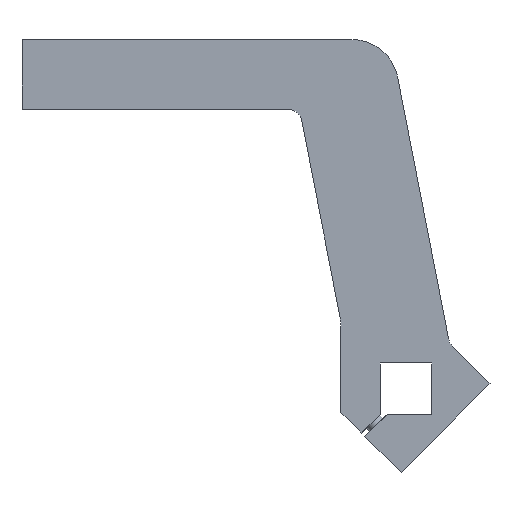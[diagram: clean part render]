
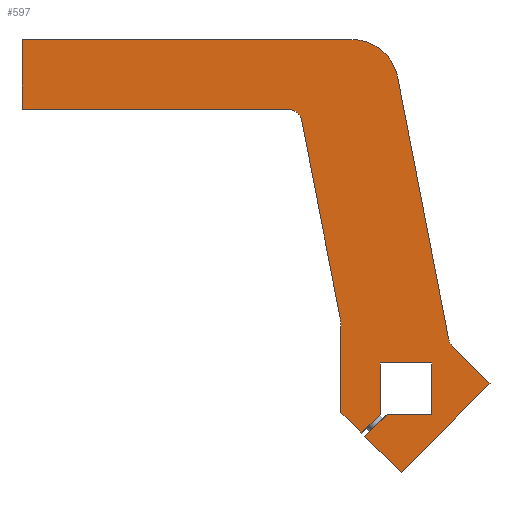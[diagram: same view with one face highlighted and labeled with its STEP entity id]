
A CAD part, left-side view. The second image highlights one B-rep face of the part: STEP entity #597.
In plain terms, the highlighted planar face has unit normal (-1, 0, 0).
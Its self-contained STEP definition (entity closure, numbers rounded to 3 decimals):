
#35=PLANE('',#662);
#57=FACE_OUTER_BOUND('',#94,.T.);
#94=EDGE_LOOP('',(#448,#449,#450,#451,#452,#453,#454,#455,#456,#457,#458,
#459,#460,#461,#462,#463,#464,#465,#466,#467));
#127=LINE('',#875,#187);
#132=LINE('',#890,#192);
#138=LINE('',#919,#198);
#142=LINE('',#931,#202);
#143=LINE('',#934,#203);
#144=LINE('',#935,#204);
#145=LINE('',#937,#205);
#146=LINE('',#939,#206);
#147=LINE('',#941,#207);
#148=LINE('',#943,#208);
#149=LINE('',#945,#209);
#150=LINE('',#947,#210);
#151=LINE('',#949,#211);
#152=LINE('',#951,#212);
#153=LINE('',#953,#213);
#154=LINE('',#954,#214);
#187=VECTOR('',#705,10.);
#192=VECTOR('',#718,10.);
#198=VECTOR('',#746,10.);
#202=VECTOR('',#758,10.);
#203=VECTOR('',#761,10.);
#204=VECTOR('',#762,10.);
#205=VECTOR('',#763,10.);
#206=VECTOR('',#764,10.);
#207=VECTOR('',#765,10.);
#208=VECTOR('',#766,10.);
#209=VECTOR('',#767,10.);
#210=VECTOR('',#768,10.);
#211=VECTOR('',#769,10.);
#212=VECTOR('',#770,10.);
#213=VECTOR('',#771,10.);
#214=VECTOR('',#772,10.);
#245=CIRCLE('',#640,6.);
#247=CIRCLE('',#644,6.);
#256=CIRCLE('',#655,20.);
#258=CIRCLE('',#659,20.);
#269=VERTEX_POINT('',#865);
#270=VERTEX_POINT('',#866);
#273=VERTEX_POINT('',#874);
#275=VERTEX_POINT('',#880);
#276=VERTEX_POINT('',#881);
#279=VERTEX_POINT('',#889);
#288=VERTEX_POINT('',#909);
#289=VERTEX_POINT('',#910);
#292=VERTEX_POINT('',#921);
#293=VERTEX_POINT('',#922);
#296=VERTEX_POINT('',#933);
#297=VERTEX_POINT('',#936);
#298=VERTEX_POINT('',#938);
#299=VERTEX_POINT('',#940);
#300=VERTEX_POINT('',#942);
#301=VERTEX_POINT('',#944);
#302=VERTEX_POINT('',#946);
#303=VERTEX_POINT('',#948);
#304=VERTEX_POINT('',#950);
#305=VERTEX_POINT('',#952);
#325=EDGE_CURVE('',#269,#270,#245,.T.);
#329=EDGE_CURVE('',#273,#270,#127,.T.);
#332=EDGE_CURVE('',#275,#276,#247,.T.);
#336=EDGE_CURVE('',#279,#276,#132,.T.);
#346=EDGE_CURVE('',#288,#289,#256,.T.);
#351=EDGE_CURVE('',#275,#289,#138,.T.);
#352=EDGE_CURVE('',#292,#293,#258,.T.);
#357=EDGE_CURVE('',#269,#293,#142,.T.);
#358=EDGE_CURVE('',#292,#296,#143,.T.);
#359=EDGE_CURVE('',#296,#279,#144,.T.);
#360=EDGE_CURVE('',#288,#297,#145,.T.);
#361=EDGE_CURVE('',#297,#298,#146,.T.);
#362=EDGE_CURVE('',#298,#299,#147,.T.);
#363=EDGE_CURVE('',#299,#300,#148,.T.);
#364=EDGE_CURVE('',#300,#301,#149,.T.);
#365=EDGE_CURVE('',#301,#302,#150,.T.);
#366=EDGE_CURVE('',#302,#303,#151,.T.);
#367=EDGE_CURVE('',#303,#304,#152,.T.);
#368=EDGE_CURVE('',#304,#305,#153,.T.);
#369=EDGE_CURVE('',#305,#273,#154,.T.);
#448=ORIENTED_EDGE('',*,*,#352,.F.);
#449=ORIENTED_EDGE('',*,*,#358,.T.);
#450=ORIENTED_EDGE('',*,*,#359,.T.);
#451=ORIENTED_EDGE('',*,*,#336,.T.);
#452=ORIENTED_EDGE('',*,*,#332,.F.);
#453=ORIENTED_EDGE('',*,*,#351,.T.);
#454=ORIENTED_EDGE('',*,*,#346,.F.);
#455=ORIENTED_EDGE('',*,*,#360,.T.);
#456=ORIENTED_EDGE('',*,*,#361,.T.);
#457=ORIENTED_EDGE('',*,*,#362,.T.);
#458=ORIENTED_EDGE('',*,*,#363,.T.);
#459=ORIENTED_EDGE('',*,*,#364,.T.);
#460=ORIENTED_EDGE('',*,*,#365,.T.);
#461=ORIENTED_EDGE('',*,*,#366,.T.);
#462=ORIENTED_EDGE('',*,*,#367,.T.);
#463=ORIENTED_EDGE('',*,*,#368,.T.);
#464=ORIENTED_EDGE('',*,*,#369,.T.);
#465=ORIENTED_EDGE('',*,*,#329,.T.);
#466=ORIENTED_EDGE('',*,*,#325,.F.);
#467=ORIENTED_EDGE('',*,*,#357,.T.);
#597=ADVANCED_FACE('',(#57),#35,.T.);
#640=AXIS2_PLACEMENT_3D('',#867,#697,#698);
#644=AXIS2_PLACEMENT_3D('',#882,#710,#711);
#655=AXIS2_PLACEMENT_3D('',#911,#737,#738);
#659=AXIS2_PLACEMENT_3D('',#923,#749,#750);
#662=AXIS2_PLACEMENT_3D('',#932,#759,#760);
#697=DIRECTION('center_axis',(-1.,0.,0.));
#698=DIRECTION('ref_axis',(0.,0.883,-0.469));
#705=DIRECTION('',(0.,0.707,0.707));
#710=DIRECTION('center_axis',(-1.,0.,0.));
#711=DIRECTION('ref_axis',(0.,-0.636,0.772));
#718=DIRECTION('',(0.,-1.,0.));
#737=DIRECTION('center_axis',(-1.,0.,0.));
#738=DIRECTION('ref_axis',(0.,-0.995,0.096));
#746=DIRECTION('',(0.,-0.191,-0.982));
#749=DIRECTION('center_axis',(1.,0.,0.));
#750=DIRECTION('ref_axis',(0.,-0.636,0.772));
#758=DIRECTION('',(0.,0.191,0.982));
#759=DIRECTION('center_axis',(-1.,0.,0.));
#760=DIRECTION('ref_axis',(0.,0.,1.));
#761=DIRECTION('',(0.,1.,0.));
#762=DIRECTION('',(0.,0.,-1.));
#763=DIRECTION('',(0.,0.,-1.));
#764=DIRECTION('',(0.,-0.707,-0.707));
#765=DIRECTION('',(0.,-0.707,0.707));
#766=DIRECTION('',(0.,0.,1.));
#767=DIRECTION('',(0.,-1.,0.));
#768=DIRECTION('',(0.,0.,-1.));
#769=DIRECTION('',(0.,1.,0.));
#770=DIRECTION('',(0.,0.707,-0.707));
#771=DIRECTION('',(0.,-0.707,-0.707));
#772=DIRECTION('',(0.,-0.707,0.707));
#865=CARTESIAN_POINT('',(-12.5,-18.256,21.378));
#866=CARTESIAN_POINT('',(-12.5,-19.903,18.28));
#867=CARTESIAN_POINT('Origin',(-12.5,-24.146,22.523));
#874=CARTESIAN_POINT('',(-12.5,-36.062,2.121));
#875=CARTESIAN_POINT('',(-12.5,-19.092,19.092));
#880=CARTESIAN_POINT('',(-12.5,44.794,115.145));
#881=CARTESIAN_POINT('',(-12.5,50.683,120.));
#882=CARTESIAN_POINT('Origin',(-12.5,50.683,114.));
#889=CARTESIAN_POINT('',(-12.5,165.,120.));
#890=CARTESIAN_POINT('',(-12.5,45.737,120.));
#909=CARTESIAN_POINT('',(-12.5,28.,26.823));
#910=CARTESIAN_POINT('',(-12.5,28.367,30.639));
#911=CARTESIAN_POINT('Origin',(-12.5,48.,26.823));
#919=CARTESIAN_POINT('',(-12.5,28.,28.749));
#921=CARTESIAN_POINT('',(-12.5,23.232,150.));
#922=CARTESIAN_POINT('',(-12.5,3.599,133.816));
#923=CARTESIAN_POINT('Origin',(-12.5,23.232,130.));
#931=CARTESIAN_POINT('',(-12.5,6.745,150.));
#932=CARTESIAN_POINT('Origin',(-12.5,54.198,93.052));
#933=CARTESIAN_POINT('',(-12.5,165.,150.));
#934=CARTESIAN_POINT('',(-12.5,165.,150.));
#935=CARTESIAN_POINT('',(-12.5,165.,120.));
#936=CARTESIAN_POINT('',(-12.5,28.,-10.184));
#937=CARTESIAN_POINT('',(-12.5,28.,-10.184));
#938=CARTESIAN_POINT('',(-12.5,19.092,-19.092));
#939=CARTESIAN_POINT('',(-12.5,19.092,-19.092));
#940=CARTESIAN_POINT('',(-12.5,11.,-11.));
#941=CARTESIAN_POINT('',(-12.5,7.964,-7.964));
#942=CARTESIAN_POINT('',(-12.5,11.,11.));
#943=CARTESIAN_POINT('',(-12.5,11.,11.));
#944=CARTESIAN_POINT('',(-12.5,-11.,11.));
#945=CARTESIAN_POINT('',(-12.5,-11.,11.));
#946=CARTESIAN_POINT('',(-12.5,-11.,-11.));
#947=CARTESIAN_POINT('',(-12.5,-11.,52.026));
#948=CARTESIAN_POINT('',(-12.5,8.172,-11.));
#949=CARTESIAN_POINT('',(-12.5,21.599,-11.));
#950=CARTESIAN_POINT('',(-12.5,17.678,-20.506));
#951=CARTESIAN_POINT('',(-12.5,-6.335,3.506));
#952=CARTESIAN_POINT('',(-12.5,2.121,-36.062));
#953=CARTESIAN_POINT('',(-12.5,19.092,-19.092));
#954=CARTESIAN_POINT('',(-12.5,-36.062,2.121));
